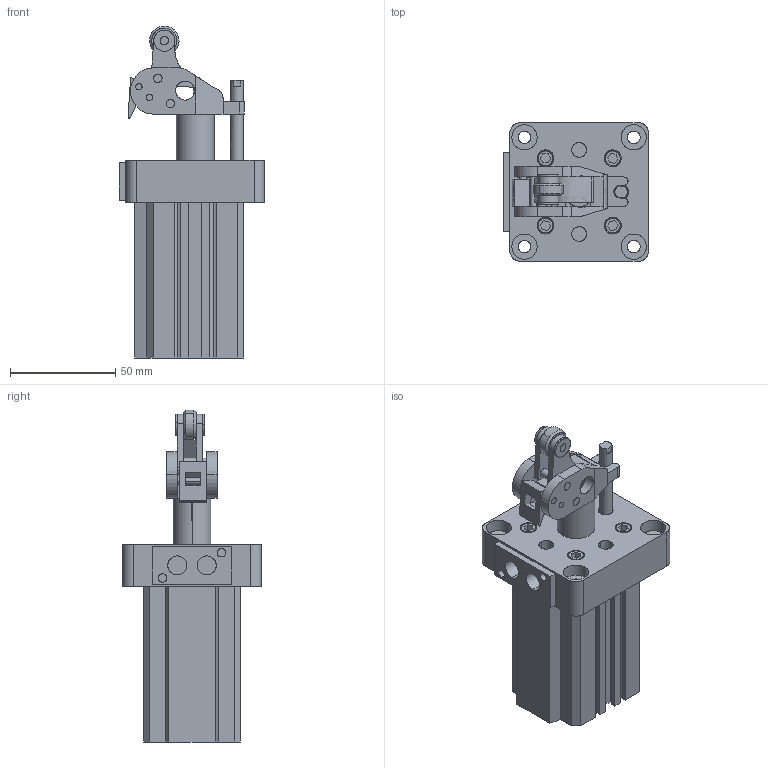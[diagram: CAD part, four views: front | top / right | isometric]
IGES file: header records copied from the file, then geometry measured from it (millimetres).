
Start section: SolidWorks IGES file using analytic representation for surfaces
Global section: file name: D:\Documents de SGA\Pieces 2D et 3D\GTF\gtf 32.IGS; native system: SolidWorks 2010; preprocessor: SolidWorks 2010; author: SGA; date: 111116.155516; units: millimetre
Bounding box: 69 x 66 x 157.9 mm (x, y, z)
Surface area: 60851.5 mm2 (no closed solid volume)
Topology: 0 solids, 0 shells, 382 faces, 6648 edges, 6646 vertices
Faces by surface type: bspline 209, revolution 173
